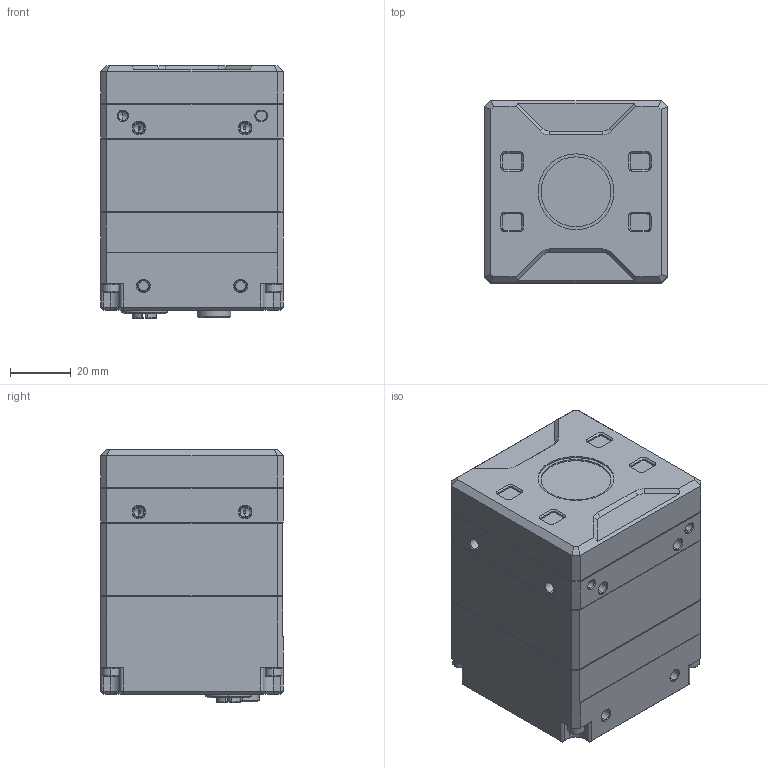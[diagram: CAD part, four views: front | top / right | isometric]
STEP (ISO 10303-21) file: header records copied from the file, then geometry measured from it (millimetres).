
FILE_DESCRIPTION (( 'STEP AP203' ), '1' );
FILE_NAME ('282-423-A.STEP', '2024-12-17T21:02:12', ( '' ), ( '' ), 'SwSTEP 2.0', 'SolidWorks 2021', '' );
FILE_SCHEMA (( 'CONFIG_CONTROL_DESIGN' ));
Length unit declared in the file: millimetre
Products named in the file (1): 282-423-A
Bounding box: 60 x 60 x 83.15 mm (x, y, z)
Volume: 284180 mm3; surface area: 29336.3 mm2
Topology: 3 solids, 7 shells, 818 faces, 1907 edges, 1153 vertices
Faces by surface type: plane 320, cylinder 240, cone 170, bspline 76, torus 12
Entity records: 25774 total; most frequent: CARTESIAN_POINT 7321, DIRECTION 3903, ORIENTED_EDGE 3786, EDGE_CURVE 1893, AXIS2_PLACEMENT_3D 1471, VERTEX_POINT 1153, LINE 961, VECTOR 961
